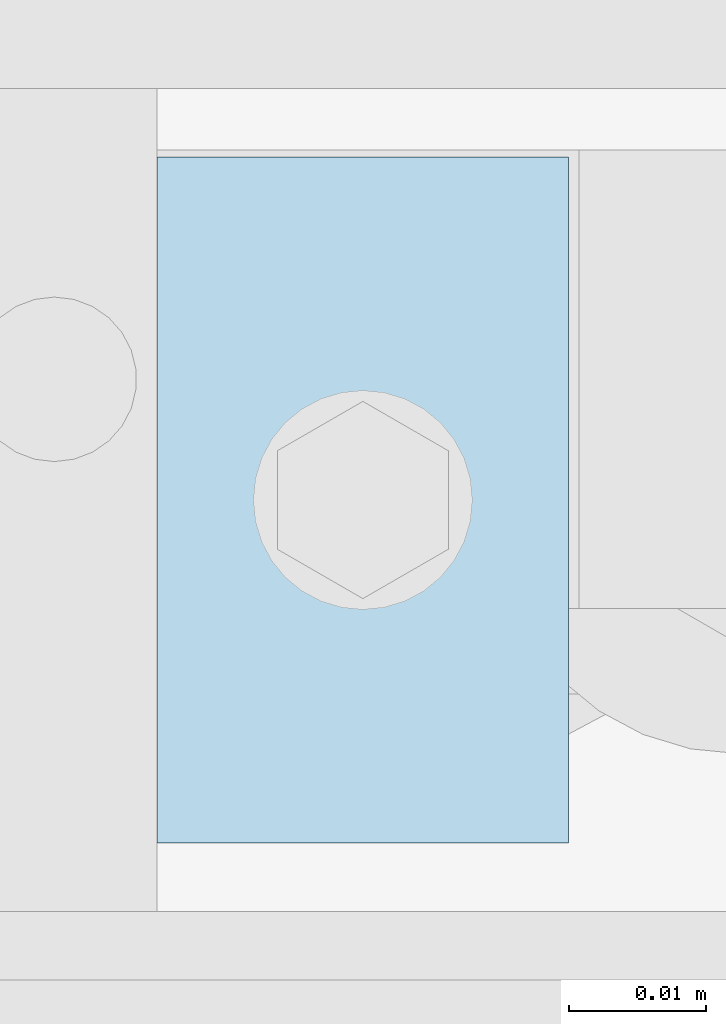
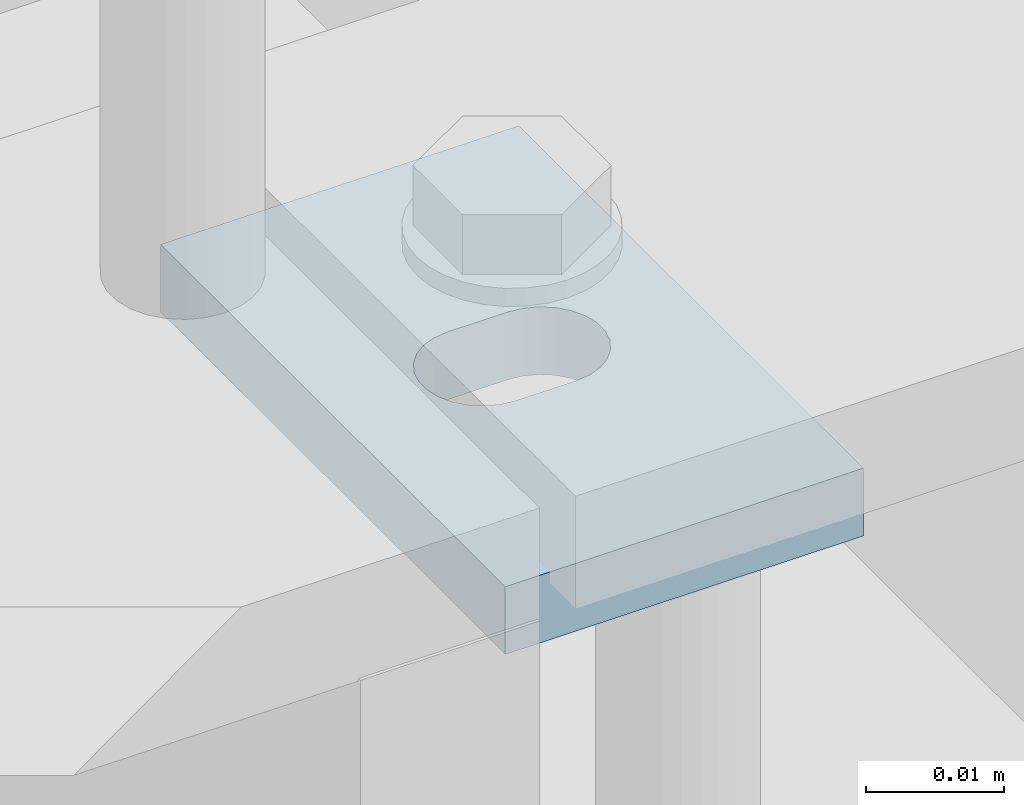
# One storey, part 228 of 817: 1 plate, 1 opening.
"""IFC2X3 building model written with IfcOpenShell, lengths in millimetres."""

from ifc_helpers import new_model, entity, si_unit, converted_unit, point, frame, frame_2d, origin, origin_with_axes, place, context, project, spatial, polyline, circle_curve, line_curve, trimmed, segment, composite_curve, outline, extrude, material, layer, layer_set, element, save


model = new_model("IFC2X3")

# Units and contexts
model_context = context("Model", 3, precision=1e-09, world=origin_with_axes())
ifc_project = project(units=[si_unit("LENGTHUNIT", "METRE", prefix="MILLI"), si_unit("AREAUNIT", "SQUARE_METRE"), si_unit("VOLUMEUNIT", "CUBIC_METRE"), converted_unit("PLANEANGLEUNIT", "DEGREE", entity("IfcPlaneAngleMeasure", 0.01745329), si_unit("PLANEANGLEUNIT", "RADIAN"), dimensions=[0, 0, 0, 0, 0, 0, 0])], contexts=[model_context])

# Site, building, storey
site_placement = place(None, origin_with_axes())
site = spatial("IfcSite", under=ifc_project, at=site_placement, Name="Cnopf'sche Kinderklinik", CompositionType="ELEMENT")
building_placement = place(site_placement, origin_with_axes())
building = spatial("IfcBuilding", under=site, at=building_placement, Name="Struktur 1", CompositionType="ELEMENT")
storey_placement = place(building_placement, origin_with_axes())
storey = spatial("IfcBuildingStorey", under=building, at=storey_placement, Name="Default Storey", CompositionType="ELEMENT", Elevation=0.0)

# Plate, opening
ifc_material = material(Name="S235JR")
ifc_layer = layer(ifc_material, 6.0)
ifc_layer_set = layer_set([ifc_layer], Name="S235JR")
plate_placement = place(None, frame((8372.292260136, 4526.736971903, 17526.8000003), z_axis=(0.0, 0.0, 1.0), x_axis=(1.0, 0.0, 0.0)))
plate = element("IfcPlate", 1, at=plate_placement, inside=storey, material=ifc_layer_set, Name="-", ObjectType="-", context=model_context, shape_type="SweptSolid", body=[
    extrude(outline(polyline([(-15.0, -25.0), (15.0, -25.0), (15.0, 25.0), (-15.0, 25.0), (-15.0, -25.0)])), origin_with_axes(), (0.0, 0.0, 1.0), 6.0),
])
opening_placement = place(plate_placement, frame((-1e-09, 0.0, -0.5), z_axis=(0.0, 0.0, 1.0), x_axis=(1.0, 0.0, 0.0)))
element("IfcOpeningElement", 2, at=opening_placement, cuts=plate, ObjectType="Opening", context=model_context, shape_type="SweptSolid", body=[
    extrude(outline(composite_curve([segment(trimmed(line_curve((-2.5, -5.001), (1.0, 0.0), 5.0), [point((-2.5, -5.001))], [point((2.5, -5.001))], True, "CARTESIAN"), True, "CONTINUOUS"), segment(trimmed(circle_curve(frame_2d((2.5, 0.0), x_axis=(1.0, 0.0)), 5.001), [point((2.5, -5.001))], [point((2.5, 5.001))], True, "CARTESIAN"), True, "CONTINUOUS"), segment(trimmed(line_curve((2.5, 5.001), (-1.0, 0.0), 5.0), [point((2.5, 5.001))], [point((-2.5, 5.001))], True, "CARTESIAN"), True, "CONTINUOUS"), segment(trimmed(circle_curve(frame_2d((-2.5, 0.0), x_axis=(1.0, 0.0)), 5.001), [point((-2.5, 5.001))], [point((-2.5, -5.001))], True, "CARTESIAN"), True, "CONTINUOUS")], self_intersect=False)), origin(), (0.0, 0.0, 1.0), 7.0),
])

save(model, "model.ifc")
